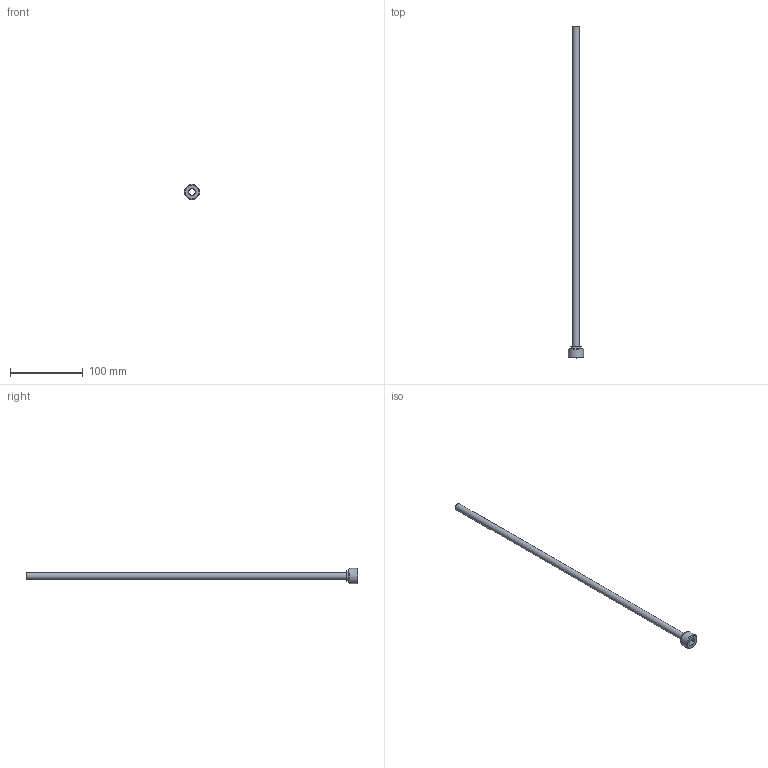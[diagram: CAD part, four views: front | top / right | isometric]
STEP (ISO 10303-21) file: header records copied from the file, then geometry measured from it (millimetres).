
FILE_DESCRIPTION(/* description */ (''),/* implementation_level */ '2;1');
FILE_NAME(/* name */ 'C:/Users/drich/Desktop/PT12-375-18 v1.step',/* time_stamp */ '2019-12-27T14:49:11-06:00',/* author */ (''),/* organization */ (''),/* preprocessor_version */ 'ST-DEVELOPER v18',/* originating_system */ 'Autodesk Translation Framework v8.12.0.6',/* authorisation */ '');
FILE_SCHEMA (('AUTOMOTIVE_DESIGN { 1 0 10303 214 3 1 1 }'));
Length unit declared in the file: inch
Products named in the file (1): PT12-375-18
Bounding box: 20.81 x 457.2 x 20.81 mm (x, y, z)
Volume: 7647.6 mm3; surface area: 26744.4 mm2
Topology: 1 solids, 1 shells, 19 faces, 48 edges, 34 vertices
Faces by surface type: plane 11, cylinder 4, torus 2, cone 2
Full cylindrical faces by diameter (mm): 8.636 x1, 9.271 x1, 13.868 x1, 20.813 x1
Entity records: 633 total; most frequent: DIRECTION 112, CARTESIAN_POINT 102, ORIENTED_EDGE 96, EDGE_CURVE 48, AXIS2_PLACEMENT_3D 44, VERTEX_POINT 34, CIRCLE 24, EDGE_LOOP 24
